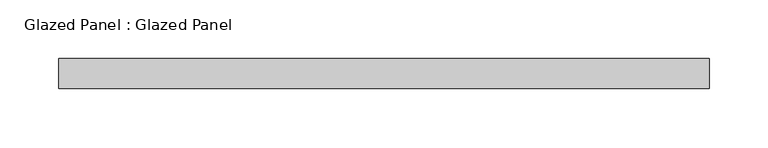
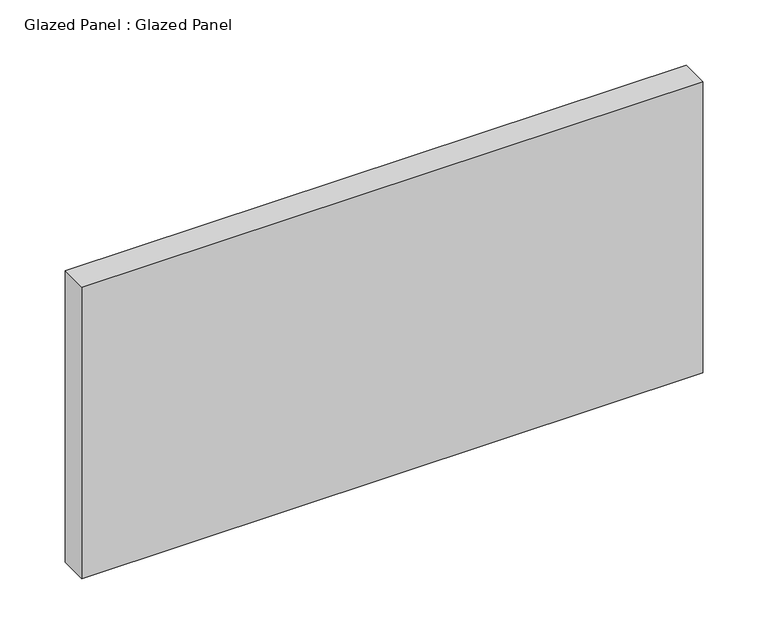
"""IFC4 building model written with IfcOpenShell, lengths in millimetres: plate geometry, Glazed Panel : Glazed Panel."""

from ifc_helpers import new_model, si_unit, origin, origin_with_axes, place, context, project, spatial, polyline, outline, extrude, source, transform, mapped, element, save


def glazed_panel_glazed_panel_338ff57e(model_context):
    return source(origin(), model_context, "Body", "SweptSolid", [
        extrude(outline(polyline([(275.43125, 38.1), (-275.43125, 38.1), (-275.43125, 63.5), (275.43125, 63.5), (275.43125, 38.1)])), origin_with_axes(), (0.0, 0.0, 1.0), 273.05),
    ])


if __name__ == "__main__":
    model = new_model("IFC4")
    model_context = context("Model", 3, world=origin())
    ifc_project = project(units=[si_unit("LENGTHUNIT", "METRE", prefix="MILLI")], contexts=[model_context])
    site = spatial("IfcSite", under=ifc_project)
    building = spatial("IfcBuilding", under=site)
    placement = place(None, origin())
    glazed_panel_glazed_panel_shape = glazed_panel_glazed_panel_338ff57e(model_context)
    element("IfcPlate", 1, ObjectType="Glazed Panel : Glazed Panel", at=placement, inside=building, context=model_context, shape_type="MappedRepresentation", body=[
        mapped(glazed_panel_glazed_panel_shape, transform((0.0, 0.0, 0.0), x_axis=(1.0, 0.0, 0.0), y_axis=(0.0, 1.0, 0.0), z_axis=(0.0, 0.0, 1.0))),
    ])
    save(model, "model.ifc")
